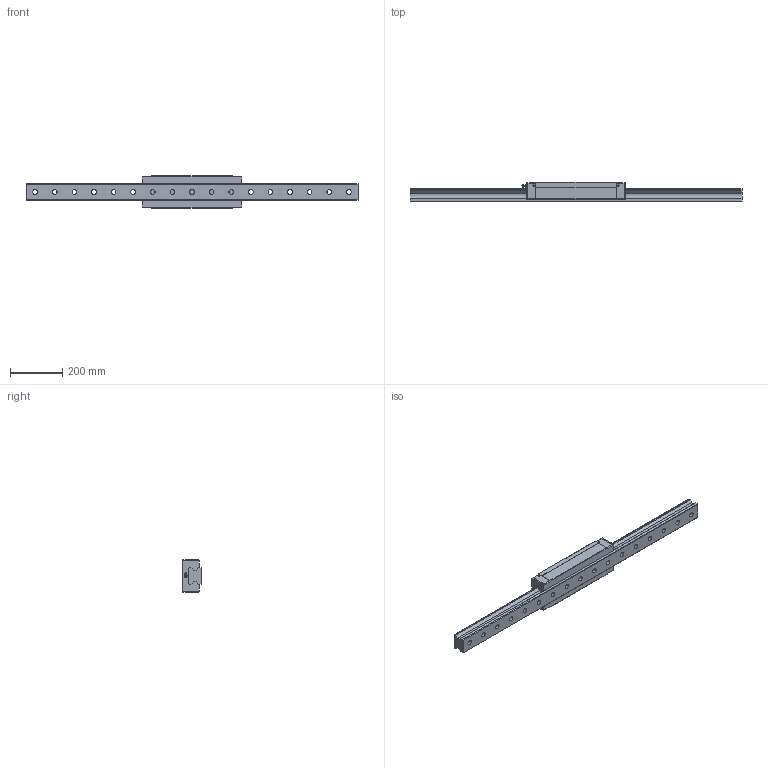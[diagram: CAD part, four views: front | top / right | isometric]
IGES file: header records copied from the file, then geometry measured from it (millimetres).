
Start section: Data from Parasolid IGES Translator 26.0.171, Copyright(c) 2006 Siemens PLM Software. All Rights Reserved.
Global section: file name: SRN65SLR1SS-1270L_G35_0_B-PT18_445_0_0_0_1.igs; native system: By Siemens PLM Incorporated; preprocessor: XPlus GENERIC/IGES 26.0.171; author: Noname; organization: Noname; date: 20240523.105837; units: millimetre
Bounding box: 1270 x 75 x 126 mm (x, y, z)
Surface area: 552316.6 mm2 (no closed solid volume)
Topology: 0 solids, 0 shells, 222 faces, 1114 edges, 992 vertices
Faces by surface type: extrusion 132, revolution 90
